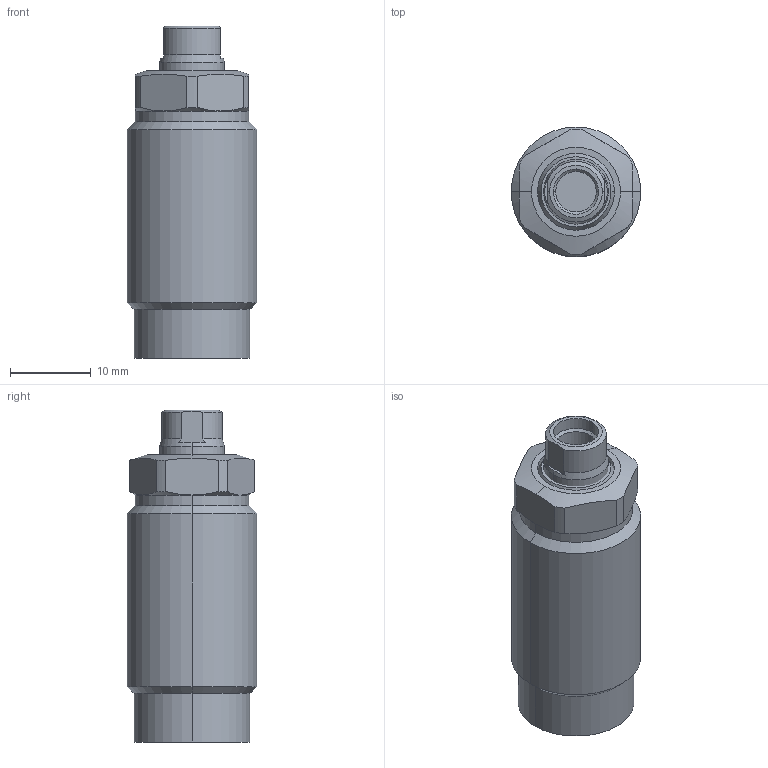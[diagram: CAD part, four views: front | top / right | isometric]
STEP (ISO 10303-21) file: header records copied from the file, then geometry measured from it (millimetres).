
FILE_DESCRIPTION((' '),'2;1');
FILE_NAME( 'TGP16-AM.x_t.stp', '2025-02-10T16:03:50', (' '), ('--- Datakit www.datakit.com---'), ' Datakit CrossCadWare V2024.1 Dec 21 2023', 'Mastercam 2025', ' ');
FILE_SCHEMA(('AUTOMOTIVE_DESIGN { 1 0 10303 214 1 1 1 1 }'));
Length unit declared in the file: millimetre
Products named in the file (1): TGP16-AM
Bounding box: 16 x 16 x 41 mm (x, y, z)
Volume: 6996.2 mm3; surface area: 2943.9 mm2
Topology: 2 solids, 2 shells, 77 faces, 176 edges, 110 vertices
Faces by surface type: cylinder 30, cone 22, plane 21, torus 4
Entity records: 2296 total; most frequent: CARTESIAN_POINT 508, DIRECTION 396, ORIENTED_EDGE 352, EDGE_CURVE 176, AXIS2_PLACEMENT_3D 170, VERTEX_POINT 110, CIRCLE 92, EDGE_LOOP 84
